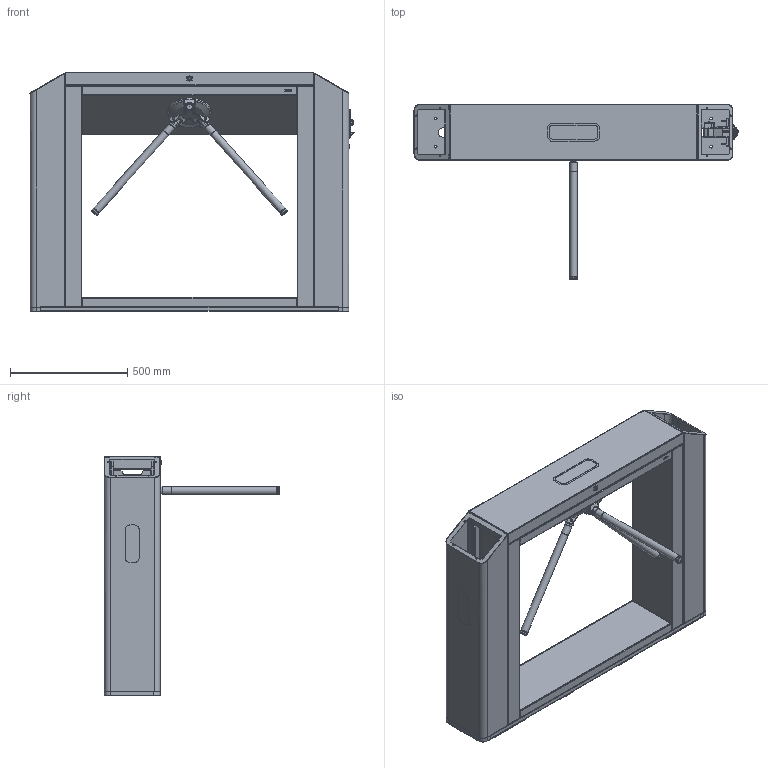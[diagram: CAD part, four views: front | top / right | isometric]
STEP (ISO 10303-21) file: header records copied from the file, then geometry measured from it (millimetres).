
FILE_DESCRIPTION(/* description */ ('Unknown'),/* implementation_level */ '2;1');
FILE_NAME(/* name */ 'TTD-10AP',/* time_stamp */ '2021-11-25T14:55:58+03:00',/* author */ ('Unknown'),/* organization */ ('Unknown'),/* preprocessor_version */ 'ST-DEVELOPER v18.1',/* originating_system */ 'Solid Edge',/* authorisation */ 'Unknown');
FILE_SCHEMA (('CONFIG_CONTROL_DESIGN'));
Products named in the file (1): TTD-10AP
Bounding box: 1384.83 x 751.05 x 1024.5 mm (x, y, z)
Volume: 7461555.7 mm3; surface area: 8280769.5 mm2
Topology: 59 solids, 59 shells, 3381 faces, 8693 edges, 5368 vertices
Faces by surface type: plane 1548, cylinder 1070, bspline 278, torus 226, cone 159, sphere 100
Full cylindrical faces by diameter (mm): 2.5 x6, 3.2 x73, 3.242 x15, 3.3 x32, 4 x16, 4.5 x4, 5 x19, 5.7 x2, 6 x8, 6.466 x3, 7 x20, 7.4 x2, 8 x30, 8.5 x4, 9 x3, 10 x17, 12 x4, 13 x7, 14.5 x3, 15.294 x1, 20 x1, 21.2 x2, 23.4 x3, 27 x6, 28 x3, 28.5 x6, 32 x9, 40 x2, 185 x1, 188 x1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
Entity records: 126721 total; most frequent: CARTESIAN_POINT 38652, ORIENTED_EDGE 15888, DIRECTION 14843, EDGE_CURVE 7944, AXIS2_PLACEMENT_3D 5276, VERTEX_POINT 5150, FACE_BOUND 4346, EDGE_LOOP 4328
